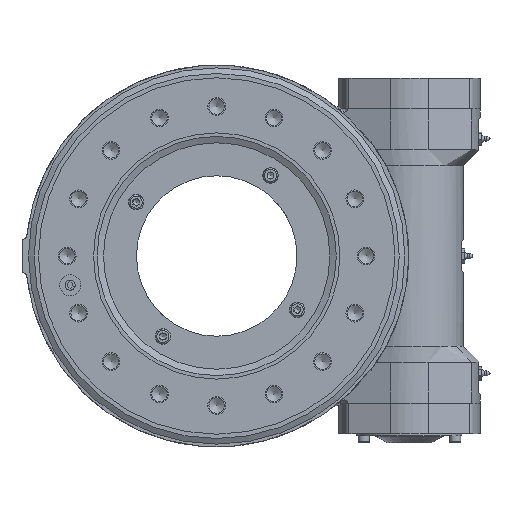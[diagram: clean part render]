
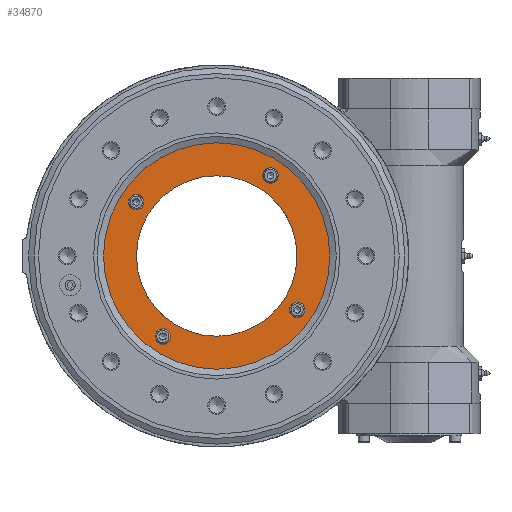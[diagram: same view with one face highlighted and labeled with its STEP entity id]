
A CAD part, left-side view. The second image highlights one B-rep face of the part: STEP entity #34870.
In plain terms, the highlighted planar face has unit normal (-1, 0, 0).
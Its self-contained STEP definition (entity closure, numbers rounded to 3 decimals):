
#396 = CARTESIAN_POINT ( 'NONE',  ( -22.9, -55.612, 72.754 ) ) ;
#1889 = CARTESIAN_POINT ( 'NONE',  ( -22.9, 55.612, -72.754 ) ) ;
#3297 = EDGE_LOOP ( 'NONE', ( #24288 ) ) ;
#5500 = EDGE_CURVE ( 'NONE', #29565, #29565, #29989, .T. ) ;
#6123 = CARTESIAN_POINT ( 'NONE',  ( -22.9, 0., 0. ) ) ;
#6240 = ORIENTED_EDGE ( 'NONE', *, *, #5500, .F. ) ;
#6337 = VERTEX_POINT ( 'NONE', #22396 ) ;
#7866 = CARTESIAN_POINT ( 'NONE',  ( -22.9, 48.612, -72.754 ) ) ;
#7937 = AXIS2_PLACEMENT_3D ( 'NONE', #7866, #26974, #29744 ) ;
#9947 = DIRECTION ( 'NONE',  ( 0., 1., 0. ) ) ;
#10114 = ORIENTED_EDGE ( 'NONE', *, *, #29734, .F. ) ;
#10247 = VERTEX_POINT ( 'NONE', #33169 ) ;
#10569 = CARTESIAN_POINT ( 'NONE',  ( -22.9, -72.754, -48.612 ) ) ;
#10865 = FACE_BOUND ( 'NONE', #17024, .T. ) ;
#10960 = CIRCLE ( 'NONE', #21142, 7. ) ;
#11311 = EDGE_LOOP ( 'NONE', ( #25121 ) ) ;
#11837 = DIRECTION ( 'NONE',  ( 0., 1., 0. ) ) ;
#11883 = AXIS2_PLACEMENT_3D ( 'NONE', #26265, #31786, #9947 ) ;
#13144 = CIRCLE ( 'NONE', #11883, 72.5 ) ;
#13376 = AXIS2_PLACEMENT_3D ( 'NONE', #6123, #25189, #16850 ) ;
#13424 = CARTESIAN_POINT ( 'NONE',  ( -22.9, 110.25, 0. ) ) ;
#13549 = DIRECTION ( 'NONE',  ( -1., 0., 0. ) ) ;
#13620 = VERTEX_POINT ( 'NONE', #13424 ) ;
#13937 = DIRECTION ( 'NONE',  ( -1., 0., 0. ) ) ;
#15176 = AXIS2_PLACEMENT_3D ( 'NONE', #25525, #33924, #11837 ) ;
#15605 = EDGE_LOOP ( 'NONE', ( #6240 ) ) ;
#15624 = CARTESIAN_POINT ( 'NONE',  ( -22.9, 72.754, 55.612 ) ) ;
#16850 = DIRECTION ( 'NONE',  ( 0., 1., 0. ) ) ;
#16860 = EDGE_CURVE ( 'NONE', #25577, #25577, #17434, .T. ) ;
#17024 = EDGE_LOOP ( 'NONE', ( #24806 ) ) ;
#17194 = FACE_OUTER_BOUND ( 'NONE', #3297, .T. ) ;
#17434 = CIRCLE ( 'NONE', #31266, 7. ) ;
#17485 = EDGE_CURVE ( 'NONE', #10247, #10247, #13144, .T. ) ;
#19067 = DIRECTION ( 'NONE',  ( 0., 0., 1. ) ) ;
#20630 = FACE_BOUND ( 'NONE', #25255, .T. ) ;
#21142 = AXIS2_PLACEMENT_3D ( 'NONE', #10569, #13549, #32661 ) ;
#21444 = CARTESIAN_POINT ( 'NONE',  ( -22.9, 72.754, 48.612 ) ) ;
#22358 = FACE_BOUND ( 'NONE', #32243, .T. ) ;
#22364 = AXIS2_PLACEMENT_3D ( 'NONE', #21444, #32810, #19067 ) ;
#22396 = CARTESIAN_POINT ( 'NONE',  ( -22.9, -72.754, -55.612 ) ) ;
#23218 = EDGE_CURVE ( 'NONE', #6337, #6337, #10960, .T. ) ;
#23415 = CIRCLE ( 'NONE', #7937, 7. ) ;
#24246 = VERTEX_POINT ( 'NONE', #1889 ) ;
#24288 = ORIENTED_EDGE ( 'NONE', *, *, #34801, .T. ) ;
#24806 = ORIENTED_EDGE ( 'NONE', *, *, #17485, .T. ) ;
#25121 = ORIENTED_EDGE ( 'NONE', *, *, #16860, .F. ) ;
#25189 = DIRECTION ( 'NONE',  ( -1., 0., 0. ) ) ;
#25255 = EDGE_LOOP ( 'NONE', ( #31444 ) ) ;
#25525 = CARTESIAN_POINT ( 'NONE',  ( -22.9, 0., 0. ) ) ;
#25577 = VERTEX_POINT ( 'NONE', #396 ) ;
#26200 = FACE_BOUND ( 'NONE', #15605, .T. ) ;
#26265 = CARTESIAN_POINT ( 'NONE',  ( -22.9, 0., 0. ) ) ;
#26974 = DIRECTION ( 'NONE',  ( -1., 0., 0. ) ) ;
#27560 = DIRECTION ( 'NONE',  ( 0., -1., 0. ) ) ;
#28205 = PLANE ( 'NONE',  #15176 ) ;
#28319 = FACE_BOUND ( 'NONE', #11311, .T. ) ;
#28358 = CIRCLE ( 'NONE', #13376, 110.25 ) ;
#29565 = VERTEX_POINT ( 'NONE', #15624 ) ;
#29734 = EDGE_CURVE ( 'NONE', #24246, #24246, #23415, .T. ) ;
#29744 = DIRECTION ( 'NONE',  ( 0., 1., 0. ) ) ;
#29989 = CIRCLE ( 'NONE', #22364, 7. ) ;
#30085 = CARTESIAN_POINT ( 'NONE',  ( -22.9, -48.612, 72.754 ) ) ;
#31266 = AXIS2_PLACEMENT_3D ( 'NONE', #30085, #13937, #27560 ) ;
#31444 = ORIENTED_EDGE ( 'NONE', *, *, #23218, .F. ) ;
#31786 = DIRECTION ( 'NONE',  ( 1., 0., 0. ) ) ;
#32243 = EDGE_LOOP ( 'NONE', ( #10114 ) ) ;
#32661 = DIRECTION ( 'NONE',  ( 0., 0., -1. ) ) ;
#32810 = DIRECTION ( 'NONE',  ( -1., 0., 0. ) ) ;
#33169 = CARTESIAN_POINT ( 'NONE',  ( -22.9, 72.5, 0. ) ) ;
#33924 = DIRECTION ( 'NONE',  ( 1., 0., 0. ) ) ;
#34801 = EDGE_CURVE ( 'NONE', #13620, #13620, #28358, .T. ) ;
#34870 = ADVANCED_FACE ( 'NONE', ( #20630, #22358, #26200, #28319, #17194, #10865 ), #28205, .F. ) ;
